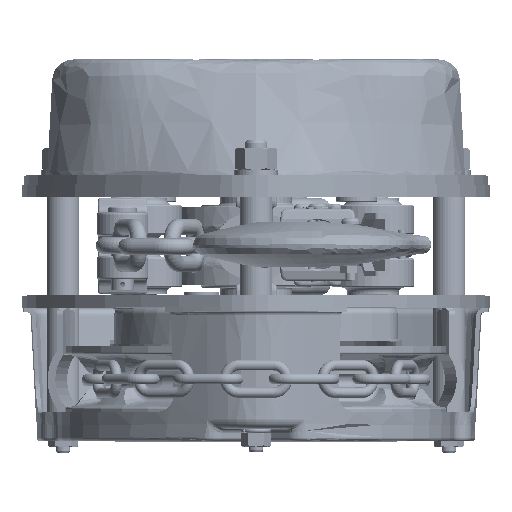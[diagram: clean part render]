
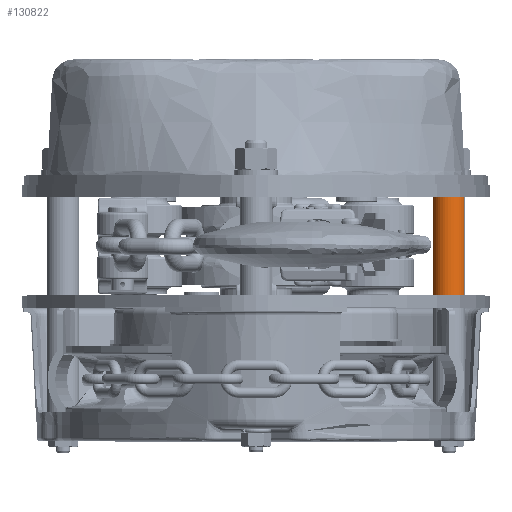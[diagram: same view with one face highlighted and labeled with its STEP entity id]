
A CAD part, top view. The second image highlights one B-rep face of the part: STEP entity #130822.
In plain terms, the highlighted cylindrical face has radius 8 mm (diameter 16 mm), a partial arc.
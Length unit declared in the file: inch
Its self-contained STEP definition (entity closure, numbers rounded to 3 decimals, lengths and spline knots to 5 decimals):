
#637 = VECTOR ( 'NONE', #52240, 39.37008 ) ;
#1579 = CARTESIAN_POINT ( 'NONE',  ( 0., 0., 1.90945 ) ) ;
#6924 = DIRECTION ( 'NONE',  ( 0., 0., 1. ) ) ;
#10621 = FACE_OUTER_BOUND ( 'NONE', #148042, .T. ) ;
#30223 = VERTEX_POINT ( 'NONE', #93056 ) ;
#30560 = LINE ( 'NONE', #101968, #637 ) ;
#35240 = AXIS2_PLACEMENT_3D ( 'NONE', #1579, #6924, #48945 ) ;
#35713 = LINE ( 'NONE', #155247, #51740 ) ;
#37624 = ORIENTED_EDGE ( 'NONE', *, *, #60786, .F. ) ;
#38566 = CARTESIAN_POINT ( 'NONE',  ( -0.31496, 0., 1.90945 ) ) ;
#39523 = VERTEX_POINT ( 'NONE', #119682 ) ;
#47506 = CARTESIAN_POINT ( 'NONE',  ( 0., 0., 2.99213 ) ) ;
#48067 = DIRECTION ( 'NONE',  ( 0., 0., 1. ) ) ;
#48945 = DIRECTION ( 'NONE',  ( 1., 0., 0. ) ) ;
#51740 = VECTOR ( 'NONE', #95837, 39.37008 ) ;
#52240 = DIRECTION ( 'NONE',  ( 0., 0., 1. ) ) ;
#60786 = EDGE_CURVE ( 'NONE', #39523, #104220, #35713, .T. ) ;
#72878 = EDGE_CURVE ( 'NONE', #39523, #30223, #136995, .T. ) ;
#78231 = DIRECTION ( 'NONE',  ( 0., 0., 1. ) ) ;
#93056 = CARTESIAN_POINT ( 'NONE',  ( 0.31496, 0., 0. ) ) ;
#93980 = ORIENTED_EDGE ( 'NONE', *, *, #72878, .T. ) ;
#94045 = CARTESIAN_POINT ( 'NONE',  ( 0.31496, 0., 1.90945 ) ) ;
#95837 = DIRECTION ( 'NONE',  ( 0., 0., 1. ) ) ;
#97751 = CARTESIAN_POINT ( 'NONE',  ( 0., 0., 0. ) ) ;
#101968 = CARTESIAN_POINT ( 'NONE',  ( 0.31496, 0., 2.99213 ) ) ;
#104220 = VERTEX_POINT ( 'NONE', #38566 ) ;
#104322 = CIRCLE ( 'NONE', #35240, 0.31496 ) ;
#108183 = DIRECTION ( 'NONE',  ( 1., 0., 0. ) ) ;
#108409 = CYLINDRICAL_SURFACE ( 'NONE', #135355, 0.31496 ) ;
#119682 = CARTESIAN_POINT ( 'NONE',  ( -0.31496, 0., 0. ) ) ;
#120421 = EDGE_CURVE ( 'NONE', #104220, #156479, #104322, .T. ) ;
#130822 = ADVANCED_FACE ( 'NONE', ( #10621 ), #108409, .T. ) ;
#135355 = AXIS2_PLACEMENT_3D ( 'NONE', #47506, #78231, #139989 ) ;
#136995 = CIRCLE ( 'NONE', #144668, 0.31496 ) ;
#139989 = DIRECTION ( 'NONE',  ( 1., 0., 0. ) ) ;
#144668 = AXIS2_PLACEMENT_3D ( 'NONE', #97751, #48067, #108183 ) ;
#145500 = EDGE_CURVE ( 'NONE', #30223, #156479, #30560, .T. ) ;
#148042 = EDGE_LOOP ( 'NONE', ( #37624, #93980, #150019, #153065 ) ) ;
#150019 = ORIENTED_EDGE ( 'NONE', *, *, #145500, .T. ) ;
#153065 = ORIENTED_EDGE ( 'NONE', *, *, #120421, .F. ) ;
#155247 = CARTESIAN_POINT ( 'NONE',  ( -0.31496, 0., 2.99213 ) ) ;
#156479 = VERTEX_POINT ( 'NONE', #94045 ) ;
